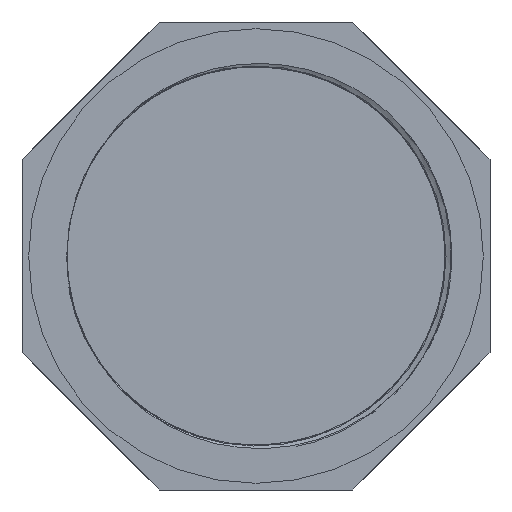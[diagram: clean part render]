
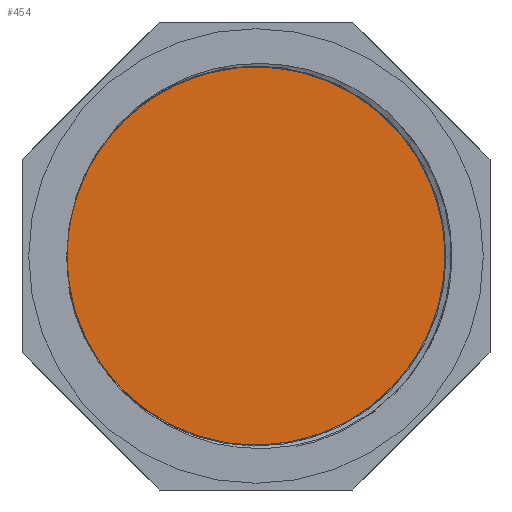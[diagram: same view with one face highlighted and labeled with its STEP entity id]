
A CAD part, front view. The second image highlights one B-rep face of the part: STEP entity #454.
In plain terms, the highlighted planar face has unit normal (0, -1, 0).
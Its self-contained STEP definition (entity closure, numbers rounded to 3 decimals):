
#26=PLANE('',#485);
#123=FACE_OUTER_BOUND('',#154,.T.);
#154=EDGE_LOOP('',(#344));
#184=CIRCLE('',#484,42.463);
#220=VERTEX_POINT('',#5958);
#267=EDGE_CURVE('',#220,#220,#184,.T.);
#344=ORIENTED_EDGE('',*,*,#267,.F.);
#454=ADVANCED_FACE('',(#123),#26,.F.);
#484=AXIS2_PLACEMENT_3D('',#5959,#535,#536);
#485=AXIS2_PLACEMENT_3D('',#5960,#537,#538);
#535=DIRECTION('center_axis',(0.,1.,0.));
#536=DIRECTION('ref_axis',(-1.,0.,0.));
#537=DIRECTION('center_axis',(0.,1.,0.));
#538=DIRECTION('ref_axis',(0.,0.,1.));
#5958=CARTESIAN_POINT('',(42.463,44.,0.));
#5959=CARTESIAN_POINT('Origin',(0.,44.,0.));
#5960=CARTESIAN_POINT('Origin',(0.,44.,0.));
